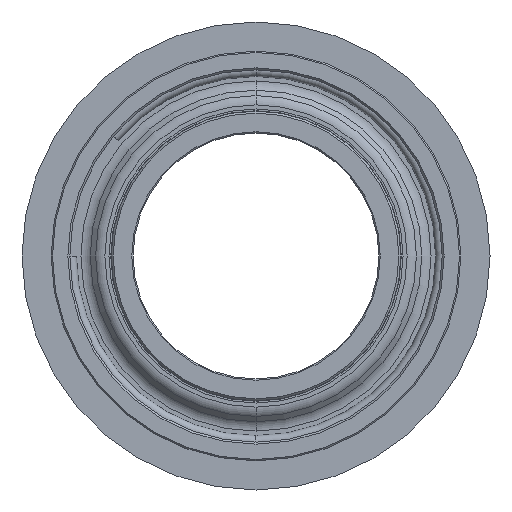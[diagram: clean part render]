
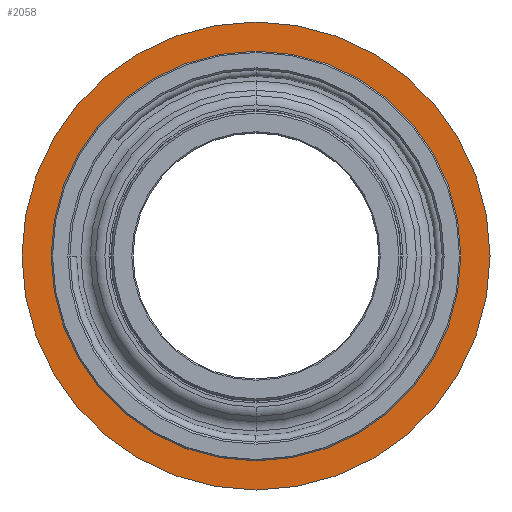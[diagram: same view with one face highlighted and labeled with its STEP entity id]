
A CAD part, front view. The second image highlights one B-rep face of the part: STEP entity #2058.
In plain terms, the highlighted planar face has unit normal (0, -1, 0).
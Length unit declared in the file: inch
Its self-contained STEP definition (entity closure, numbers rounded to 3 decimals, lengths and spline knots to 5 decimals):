
#26 = ORIENTED_EDGE ( 'NONE', *, *, #1352, .T. ) ;
#94 = VERTEX_POINT ( 'NONE', #226 ) ;
#100 = CIRCLE ( 'NONE', #557, 0.1785 ) ;
#133 = EDGE_CURVE ( 'NONE', #1980, #2001, #1699, .T. ) ;
#207 = CARTESIAN_POINT ( 'NONE',  ( 0., 0.09, 0. ) ) ;
#226 = CARTESIAN_POINT ( 'NONE',  ( 0., 0.09, 0.15125 ) ) ;
#291 = CARTESIAN_POINT ( 'NONE',  ( 0., 0.09, 0.1785 ) ) ;
#329 = DIRECTION ( 'NONE',  ( 0., 1., 0. ) ) ;
#336 = CARTESIAN_POINT ( 'NONE',  ( 0., 0.09, 0. ) ) ;
#351 = DIRECTION ( 'NONE',  ( 0., 0., 1. ) ) ;
#359 = CARTESIAN_POINT ( 'NONE',  ( 0., 0.09, 0. ) ) ;
#501 = DIRECTION ( 'NONE',  ( 0., 0., 1. ) ) ;
#547 = DIRECTION ( 'NONE',  ( 0., 1., 0. ) ) ;
#557 = AXIS2_PLACEMENT_3D ( 'NONE', #897, #705, #1943 ) ;
#644 = ORIENTED_EDGE ( 'NONE', *, *, #839, .T. ) ;
#653 = PLANE ( 'NONE',  #1271 ) ;
#673 = FACE_BOUND ( 'NONE', #1512, .T. ) ;
#675 = CIRCLE ( 'NONE', #2102, 0.15125 ) ;
#705 = DIRECTION ( 'NONE',  ( 0., 1., 0. ) ) ;
#718 = DIRECTION ( 'NONE',  ( 0., 0., 1. ) ) ;
#756 = DIRECTION ( 'NONE',  ( 0., 0., 1. ) ) ;
#774 = EDGE_LOOP ( 'NONE', ( #804, #1998 ) ) ;
#775 = EDGE_CURVE ( 'NONE', #2001, #1980, #100, .T. ) ;
#804 = ORIENTED_EDGE ( 'NONE', *, *, #775, .F. ) ;
#839 = EDGE_CURVE ( 'NONE', #2112, #94, #675, .T. ) ;
#897 = CARTESIAN_POINT ( 'NONE',  ( 0., 0.09, 0. ) ) ;
#1053 = CARTESIAN_POINT ( 'NONE',  ( 0., 0.09, 0. ) ) ;
#1146 = FACE_OUTER_BOUND ( 'NONE', #774, .T. ) ;
#1232 = DIRECTION ( 'NONE',  ( 0., 1., 0. ) ) ;
#1271 = AXIS2_PLACEMENT_3D ( 'NONE', #336, #329, #501 ) ;
#1296 = AXIS2_PLACEMENT_3D ( 'NONE', #207, #1803, #756 ) ;
#1352 = EDGE_CURVE ( 'NONE', #94, #2112, #2062, .T. ) ;
#1371 = CARTESIAN_POINT ( 'NONE',  ( 0., 0.09, -0.15125 ) ) ;
#1512 = EDGE_LOOP ( 'NONE', ( #26, #644 ) ) ;
#1699 = CIRCLE ( 'NONE', #1296, 0.1785 ) ;
#1728 = AXIS2_PLACEMENT_3D ( 'NONE', #1053, #1232, #351 ) ;
#1803 = DIRECTION ( 'NONE',  ( 0., 1., 0. ) ) ;
#1943 = DIRECTION ( 'NONE',  ( 0., 0., 1. ) ) ;
#1980 = VERTEX_POINT ( 'NONE', #291 ) ;
#1998 = ORIENTED_EDGE ( 'NONE', *, *, #133, .F. ) ;
#2001 = VERTEX_POINT ( 'NONE', #2251 ) ;
#2058 = ADVANCED_FACE ( 'NONE', ( #1146, #673 ), #653, .F. ) ;
#2062 = CIRCLE ( 'NONE', #1728, 0.15125 ) ;
#2102 = AXIS2_PLACEMENT_3D ( 'NONE', #359, #547, #718 ) ;
#2112 = VERTEX_POINT ( 'NONE', #1371 ) ;
#2251 = CARTESIAN_POINT ( 'NONE',  ( 0., 0.09, -0.1785 ) ) ;
